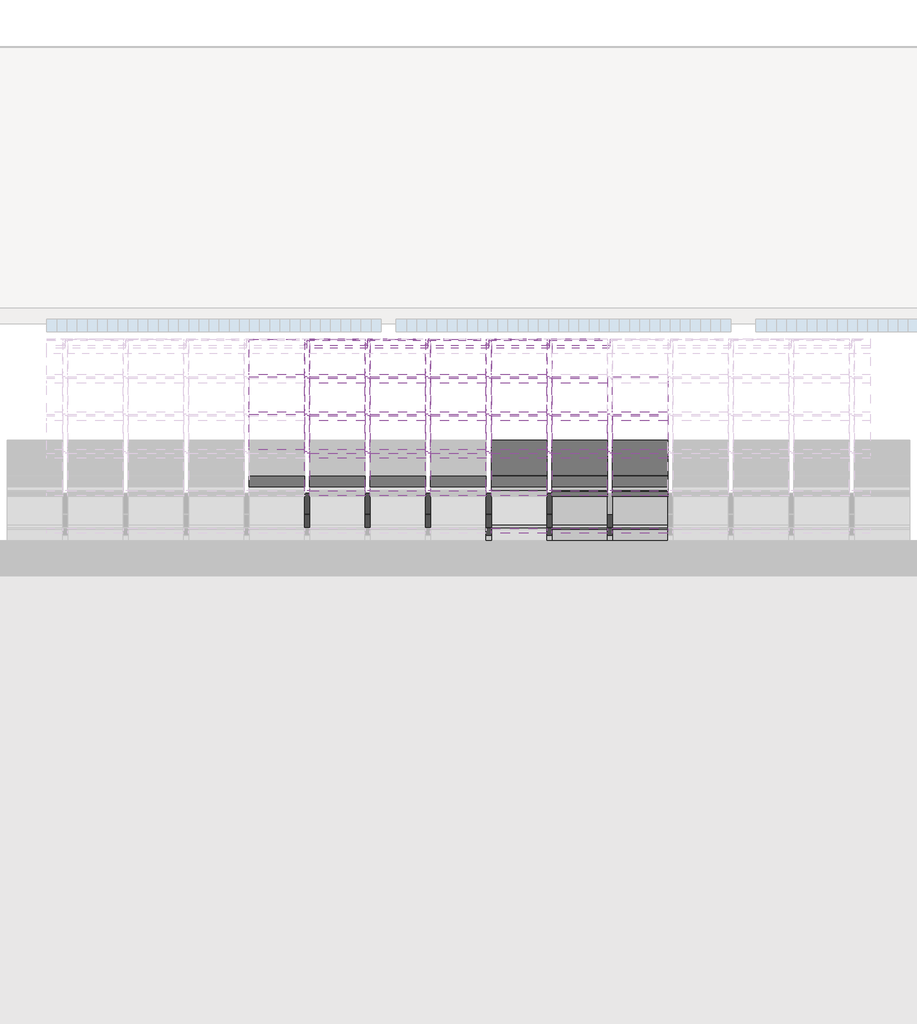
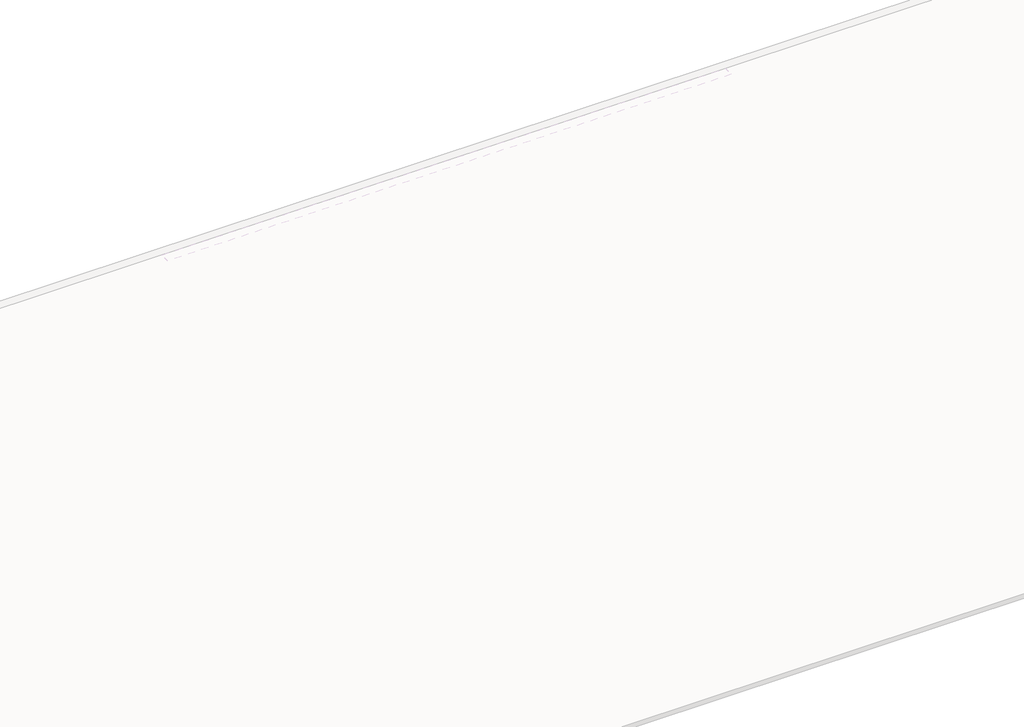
# One storey, part 22 of 57: 88 members, 33 plates.
"""IFC4 building model written with IfcOpenShell, lengths in millimetres."""

from ifc_helpers import new_model, si_unit, origin, place, context, project, spatial, transform, mapped, element, save
from components import rectangular_mullion_4c4137b9, rectangular_mullion_59984080, rectangular_mullion_2d2423ea, rectangular_mullion_3ac3718c, rectangular_mullion_caibro_df98490b, rectangular_mullion_caibro_e4384bba, rectangular_mullion_caibro_0993a3cf, rectangular_mullion_caibro_9bd7bc61, rectangular_mullion_caibro_650698a1, empty_system_panel_vazio_178faf58, empty_system_panel_vazio_2c78850d

model = new_model("IFC4")

# Units and contexts
model_context = context("Model", 3, world=origin())
ifc_project = project(units=[si_unit("LENGTHUNIT", "METRE", prefix="MILLI")], contexts=[model_context])

# Site, building, storey
site = spatial("IfcSite", under=ifc_project)
building = spatial("IfcBuilding", under=site)
storey = spatial("IfcBuildingStorey", under=building, Name="Nível 2", Elevation=4100.0)

# Members
placement = place(None, origin())
rectangular_mullion_shape = rectangular_mullion_4c4137b9(model_context)
element("IfcMember", 1, ObjectType="Rectangular Mullion : Ripa", at=placement, inside=storey, context=model_context, shape_type="MappedRepresentation", body=[
    mapped(rectangular_mullion_shape, transform((12498.6662678, 15566.1284427, 5819.8877114), x_axis=(0.0, 0.9578262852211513, 0.2873478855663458), y_axis=(0.0, 0.2873478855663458, -0.9578262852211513), z_axis=(-1.0, 0.0, 0.0))),
])
element("IfcMember", 2, ObjectType="Rectangular Mullion : Ripa", at=placement, inside=storey, context=model_context, shape_type="MappedRepresentation", body=[
    mapped(rectangular_mullion_shape, transform((13095.7210242, 15566.1284427, 5819.8877114), x_axis=(0.0, 0.9578262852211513, 0.2873478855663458), y_axis=(0.0, 0.2873478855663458, -0.9578262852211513), z_axis=(-1.0, 0.0, 0.0))),
])
element("IfcMember", 3, ObjectType="Rectangular Mullion : Ripa", at=placement, inside=storey, context=model_context, shape_type="MappedRepresentation", body=[
    mapped(rectangular_mullion_shape, transform((13692.7757807, 15566.1284427, 5819.8877114), x_axis=(0.0, 0.9578262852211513, 0.2873478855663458), y_axis=(0.0, 0.2873478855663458, -0.9578262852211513), z_axis=(-1.0, 0.0, 0.0))),
])
element("IfcMember", 4, ObjectType="Rectangular Mullion : Ripa", at=placement, inside=storey, context=model_context, shape_type="MappedRepresentation", body=[
    mapped(rectangular_mullion_shape, transform((14289.8305371, 15566.1284427, 5819.8877114), x_axis=(0.0, 0.9578262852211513, 0.2873478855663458), y_axis=(0.0, 0.2873478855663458, -0.9578262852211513), z_axis=(-1.0, 0.0, 0.0))),
])
element("IfcMember", 5, ObjectType="Rectangular Mullion : Ripa", at=placement, inside=storey, context=model_context, shape_type="MappedRepresentation", body=[
    mapped(rectangular_mullion_shape, transform((14886.8852935, 15566.1284427, 5819.8877114), x_axis=(0.0, 0.9578262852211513, 0.2873478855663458), y_axis=(0.0, 0.2873478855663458, -0.9578262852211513), z_axis=(-1.0, 0.0, 0.0))),
])
rectangular_mullion_2_shape = rectangular_mullion_59984080(model_context)
element("IfcMember", 6, ObjectType="Rectangular Mullion : Ripa", at=placement, inside=storey, context=model_context, shape_type="MappedRepresentation", body=[
    mapped(rectangular_mullion_2_shape, transform((14314.8305371, 13345.0648907, 5153.5686458), x_axis=(0.0, 0.9578262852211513, 0.2873478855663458), y_axis=(0.0, 0.2873478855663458, -0.9578262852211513), z_axis=(-1.0, 0.0, 0.0))),
])
element("IfcMember", 7, ObjectType="Rectangular Mullion : Ripa", at=placement, inside=storey, context=model_context, shape_type="MappedRepresentation", body=[
    mapped(rectangular_mullion_2_shape, transform((14911.8852935, 13345.0648907, 5153.5686458), x_axis=(0.0, 0.9578262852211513, 0.2873478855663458), y_axis=(0.0, 0.2873478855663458, -0.9578262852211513), z_axis=(-1.0, 0.0, 0.0))),
])
element("IfcMember", 8, ObjectType="Rectangular Mullion : Ripa", at=placement, inside=storey, context=model_context, shape_type="MappedRepresentation", body=[
    mapped(rectangular_mullion_2_shape, transform((15508.9400499, 13345.0648907, 5153.5686458), x_axis=(0.0, 0.9578262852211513, 0.2873478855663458), y_axis=(0.0, 0.2873478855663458, -0.9578262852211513), z_axis=(-1.0, 0.0, 0.0))),
])
element("IfcMember", 9, ObjectType="Rectangular Mullion : Ripa", at=placement, inside=storey, context=model_context, shape_type="MappedRepresentation", body=[
    mapped(rectangular_mullion_2_shape, transform((14314.8305371, 13715.2421494, 5264.6218234), x_axis=(0.0, 0.9578262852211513, 0.2873478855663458), y_axis=(0.0, 0.2873478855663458, -0.9578262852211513), z_axis=(-1.0, 0.0, 0.0))),
])
element("IfcMember", 10, ObjectType="Rectangular Mullion : Ripa", at=placement, inside=storey, context=model_context, shape_type="MappedRepresentation", body=[
    mapped(rectangular_mullion_2_shape, transform((14911.8852935, 13715.2421494, 5264.6218234), x_axis=(0.0, 0.9578262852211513, 0.2873478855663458), y_axis=(0.0, 0.2873478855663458, -0.9578262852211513), z_axis=(-1.0, 0.0, 0.0))),
])
element("IfcMember", 11, ObjectType="Rectangular Mullion : Ripa", at=placement, inside=storey, context=model_context, shape_type="MappedRepresentation", body=[
    mapped(rectangular_mullion_2_shape, transform((15508.9400499, 13715.2421494, 5264.6218234), x_axis=(0.0, 0.9578262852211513, 0.2873478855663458), y_axis=(0.0, 0.2873478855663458, -0.9578262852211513), z_axis=(-1.0, 0.0, 0.0))),
])
element("IfcMember", 12, ObjectType="Rectangular Mullion : Ripa", at=placement, inside=storey, context=model_context, shape_type="MappedRepresentation", body=[
    mapped(rectangular_mullion_2_shape, transform((12523.6662678, 14085.4194081, 5375.675001), x_axis=(0.0, 0.9578262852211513, 0.2873478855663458), y_axis=(0.0, 0.2873478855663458, -0.9578262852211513), z_axis=(-1.0, 0.0, 0.0))),
])
element("IfcMember", 13, ObjectType="Rectangular Mullion : Ripa", at=placement, inside=storey, context=model_context, shape_type="MappedRepresentation", body=[
    mapped(rectangular_mullion_2_shape, transform((13120.7210242, 14085.4194081, 5375.675001), x_axis=(0.0, 0.9578262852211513, 0.2873478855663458), y_axis=(0.0, 0.2873478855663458, -0.9578262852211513), z_axis=(-1.0, 0.0, 0.0))),
])
element("IfcMember", 14, ObjectType="Rectangular Mullion : Ripa", at=placement, inside=storey, context=model_context, shape_type="MappedRepresentation", body=[
    mapped(rectangular_mullion_2_shape, transform((13717.7757807, 14085.4194081, 5375.675001), x_axis=(0.0, 0.9578262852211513, 0.2873478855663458), y_axis=(0.0, 0.2873478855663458, -0.9578262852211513), z_axis=(-1.0, 0.0, 0.0))),
])
element("IfcMember", 15, ObjectType="Rectangular Mullion : Ripa", at=placement, inside=storey, context=model_context, shape_type="MappedRepresentation", body=[
    mapped(rectangular_mullion_2_shape, transform((14314.8305371, 14085.4194081, 5375.675001), x_axis=(0.0, 0.9578262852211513, 0.2873478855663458), y_axis=(0.0, 0.2873478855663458, -0.9578262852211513), z_axis=(-1.0, 0.0, 0.0))),
])
element("IfcMember", 16, ObjectType="Rectangular Mullion : Ripa", at=placement, inside=storey, context=model_context, shape_type="MappedRepresentation", body=[
    mapped(rectangular_mullion_2_shape, transform((14911.8852935, 14085.4194081, 5375.675001), x_axis=(0.0, 0.9578262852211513, 0.2873478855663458), y_axis=(0.0, 0.2873478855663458, -0.9578262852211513), z_axis=(-1.0, 0.0, 0.0))),
])
element("IfcMember", 17, ObjectType="Rectangular Mullion : Ripa", at=placement, inside=storey, context=model_context, shape_type="MappedRepresentation", body=[
    mapped(rectangular_mullion_2_shape, transform((15508.9400499, 14085.4194081, 5375.675001), x_axis=(0.0, 0.9578262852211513, 0.2873478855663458), y_axis=(0.0, 0.2873478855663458, -0.9578262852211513), z_axis=(-1.0, 0.0, 0.0))),
])
element("IfcMember", 18, ObjectType="Rectangular Mullion : Ripa", at=placement, inside=storey, context=model_context, shape_type="MappedRepresentation", body=[
    mapped(rectangular_mullion_2_shape, transform((12523.6662678, 14455.5966667, 5486.7281786), x_axis=(0.0, 0.9578262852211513, 0.2873478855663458), y_axis=(0.0, 0.2873478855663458, -0.9578262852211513), z_axis=(-1.0, 0.0, 0.0))),
])
element("IfcMember", 19, ObjectType="Rectangular Mullion : Ripa", at=placement, inside=storey, context=model_context, shape_type="MappedRepresentation", body=[
    mapped(rectangular_mullion_2_shape, transform((13120.7210242, 14455.5966667, 5486.7281786), x_axis=(0.0, 0.9578262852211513, 0.2873478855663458), y_axis=(0.0, 0.2873478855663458, -0.9578262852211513), z_axis=(-1.0, 0.0, 0.0))),
])
element("IfcMember", 20, ObjectType="Rectangular Mullion : Ripa", at=placement, inside=storey, context=model_context, shape_type="MappedRepresentation", body=[
    mapped(rectangular_mullion_2_shape, transform((13717.7757807, 14455.5966667, 5486.7281786), x_axis=(0.0, 0.9578262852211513, 0.2873478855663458), y_axis=(0.0, 0.2873478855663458, -0.9578262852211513), z_axis=(-1.0, 0.0, 0.0))),
])
element("IfcMember", 21, ObjectType="Rectangular Mullion : Ripa", at=placement, inside=storey, context=model_context, shape_type="MappedRepresentation", body=[
    mapped(rectangular_mullion_2_shape, transform((14314.8305371, 14455.5966667, 5486.7281786), x_axis=(0.0, 0.9578262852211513, 0.2873478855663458), y_axis=(0.0, 0.2873478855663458, -0.9578262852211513), z_axis=(-1.0, 0.0, 0.0))),
])
element("IfcMember", 22, ObjectType="Rectangular Mullion : Ripa", at=placement, inside=storey, context=model_context, shape_type="MappedRepresentation", body=[
    mapped(rectangular_mullion_2_shape, transform((14911.8852935, 14455.5966667, 5486.7281786), x_axis=(0.0, 0.9578262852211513, 0.2873478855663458), y_axis=(0.0, 0.2873478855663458, -0.9578262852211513), z_axis=(-1.0, 0.0, 0.0))),
])
element("IfcMember", 23, ObjectType="Rectangular Mullion : Ripa", at=placement, inside=storey, context=model_context, shape_type="MappedRepresentation", body=[
    mapped(rectangular_mullion_2_shape, transform((15508.9400499, 14455.5966667, 5486.7281786), x_axis=(0.0, 0.9578262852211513, 0.2873478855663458), y_axis=(0.0, 0.2873478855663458, -0.9578262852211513), z_axis=(-1.0, 0.0, 0.0))),
])
element("IfcMember", 24, ObjectType="Rectangular Mullion : Ripa", at=placement, inside=storey, context=model_context, shape_type="MappedRepresentation", body=[
    mapped(rectangular_mullion_2_shape, transform((12523.6662678, 14825.7739254, 5597.7813562), x_axis=(0.0, 0.9578262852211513, 0.2873478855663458), y_axis=(0.0, 0.2873478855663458, -0.9578262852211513), z_axis=(-1.0, 0.0, 0.0))),
])
element("IfcMember", 25, ObjectType="Rectangular Mullion : Ripa", at=placement, inside=storey, context=model_context, shape_type="MappedRepresentation", body=[
    mapped(rectangular_mullion_2_shape, transform((13120.7210242, 14825.7739254, 5597.7813562), x_axis=(0.0, 0.9578262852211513, 0.2873478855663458), y_axis=(0.0, 0.2873478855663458, -0.9578262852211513), z_axis=(-1.0, 0.0, 0.0))),
])
element("IfcMember", 26, ObjectType="Rectangular Mullion : Ripa", at=placement, inside=storey, context=model_context, shape_type="MappedRepresentation", body=[
    mapped(rectangular_mullion_2_shape, transform((13717.7757807, 14825.7739254, 5597.7813562), x_axis=(0.0, 0.9578262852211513, 0.2873478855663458), y_axis=(0.0, 0.2873478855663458, -0.9578262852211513), z_axis=(-1.0, 0.0, 0.0))),
])
element("IfcMember", 27, ObjectType="Rectangular Mullion : Ripa", at=placement, inside=storey, context=model_context, shape_type="MappedRepresentation", body=[
    mapped(rectangular_mullion_2_shape, transform((14314.8305371, 14825.7739254, 5597.7813562), x_axis=(0.0, 0.9578262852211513, 0.2873478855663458), y_axis=(0.0, 0.2873478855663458, -0.9578262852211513), z_axis=(-1.0, 0.0, 0.0))),
])
element("IfcMember", 28, ObjectType="Rectangular Mullion : Ripa", at=placement, inside=storey, context=model_context, shape_type="MappedRepresentation", body=[
    mapped(rectangular_mullion_2_shape, transform((14911.8852935, 14825.7739254, 5597.7813562), x_axis=(0.0, 0.9578262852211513, 0.2873478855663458), y_axis=(0.0, 0.2873478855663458, -0.9578262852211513), z_axis=(-1.0, 0.0, 0.0))),
])
element("IfcMember", 29, ObjectType="Rectangular Mullion : Ripa", at=placement, inside=storey, context=model_context, shape_type="MappedRepresentation", body=[
    mapped(rectangular_mullion_2_shape, transform((15508.9400499, 14825.7739254, 5597.7813562), x_axis=(0.0, 0.9578262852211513, 0.2873478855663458), y_axis=(0.0, 0.2873478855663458, -0.9578262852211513), z_axis=(-1.0, 0.0, 0.0))),
])
element("IfcMember", 30, ObjectType="Rectangular Mullion : Ripa", at=placement, inside=storey, context=model_context, shape_type="MappedRepresentation", body=[
    mapped(rectangular_mullion_2_shape, transform((12523.6662678, 15195.9511841, 5708.8345338), x_axis=(0.0, 0.9578262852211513, 0.2873478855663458), y_axis=(0.0, 0.2873478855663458, -0.9578262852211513), z_axis=(-1.0, 0.0, 0.0))),
])
element("IfcMember", 31, ObjectType="Rectangular Mullion : Ripa", at=placement, inside=storey, context=model_context, shape_type="MappedRepresentation", body=[
    mapped(rectangular_mullion_2_shape, transform((13120.7210242, 15195.9511841, 5708.8345338), x_axis=(0.0, 0.9578262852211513, 0.2873478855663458), y_axis=(0.0, 0.2873478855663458, -0.9578262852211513), z_axis=(-1.0, 0.0, 0.0))),
])
element("IfcMember", 32, ObjectType="Rectangular Mullion : Ripa", at=placement, inside=storey, context=model_context, shape_type="MappedRepresentation", body=[
    mapped(rectangular_mullion_2_shape, transform((13717.7757807, 15195.9511841, 5708.8345338), x_axis=(0.0, 0.9578262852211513, 0.2873478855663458), y_axis=(0.0, 0.2873478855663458, -0.9578262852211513), z_axis=(-1.0, 0.0, 0.0))),
])
element("IfcMember", 33, ObjectType="Rectangular Mullion : Ripa", at=placement, inside=storey, context=model_context, shape_type="MappedRepresentation", body=[
    mapped(rectangular_mullion_2_shape, transform((14314.8305371, 15195.9511841, 5708.8345338), x_axis=(0.0, 0.9578262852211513, 0.2873478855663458), y_axis=(0.0, 0.2873478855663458, -0.9578262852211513), z_axis=(-1.0, 0.0, 0.0))),
])
element("IfcMember", 34, ObjectType="Rectangular Mullion : Ripa", at=placement, inside=storey, context=model_context, shape_type="MappedRepresentation", body=[
    mapped(rectangular_mullion_2_shape, transform((14911.8852935, 15195.9511841, 5708.8345338), x_axis=(0.0, 0.9578262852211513, 0.2873478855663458), y_axis=(0.0, 0.2873478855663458, -0.9578262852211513), z_axis=(-1.0, 0.0, 0.0))),
])
rectangular_mullion_3_shape = rectangular_mullion_2d2423ea(model_context)
element("IfcMember", 35, ObjectType="Rectangular Mullion : Terça", at=placement, inside=storey, context=model_context, shape_type="MappedRepresentation", body=[
    mapped(rectangular_mullion_3_shape, transform((14314.8305371, 13411.2689826, 5110.7880343), x_axis=(0.0, 0.9578262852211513, 0.2873478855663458), y_axis=(0.0, 0.2873478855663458, -0.9578262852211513), z_axis=(-1.0, 0.0, 0.0))),
])
element("IfcMember", 36, ObjectType="Rectangular Mullion : Terça", at=placement, inside=storey, context=model_context, shape_type="MappedRepresentation", body=[
    mapped(rectangular_mullion_3_shape, transform((14911.8852935, 13411.2689826, 5110.7880343), x_axis=(0.0, 0.9578262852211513, 0.2873478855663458), y_axis=(0.0, 0.2873478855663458, -0.9578262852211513), z_axis=(-1.0, 0.0, 0.0))),
])
element("IfcMember", 37, ObjectType="Rectangular Mullion : Terça", at=placement, inside=storey, context=model_context, shape_type="MappedRepresentation", body=[
    mapped(rectangular_mullion_3_shape, transform((15508.9400499, 13411.2689826, 5110.7880343), x_axis=(0.0, 0.9578262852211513, 0.2873478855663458), y_axis=(0.0, 0.2873478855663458, -0.9578262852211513), z_axis=(-1.0, 0.0, 0.0))),
])
rectangular_mullion_4_shape = rectangular_mullion_3ac3718c(model_context)
element("IfcMember", 38, ObjectType="Rectangular Mullion : Terça", at=placement, inside=storey, context=model_context, shape_type="MappedRepresentation", body=[
    mapped(rectangular_mullion_4_shape, transform((12498.6662678, 15566.1284427, 5757.2458723), x_axis=(0.0, 0.9578262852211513, 0.2873478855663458), y_axis=(0.0, 0.2873478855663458, -0.9578262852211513), z_axis=(-1.0, 0.0, 0.0))),
])
element("IfcMember", 39, ObjectType="Rectangular Mullion : Terça", at=placement, inside=storey, context=model_context, shape_type="MappedRepresentation", body=[
    mapped(rectangular_mullion_4_shape, transform((13095.7210242, 15566.1284427, 5757.2458723), x_axis=(0.0, 0.9578262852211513, 0.2873478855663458), y_axis=(0.0, 0.2873478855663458, -0.9578262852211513), z_axis=(-1.0, 0.0, 0.0))),
])
element("IfcMember", 40, ObjectType="Rectangular Mullion : Terça", at=placement, inside=storey, context=model_context, shape_type="MappedRepresentation", body=[
    mapped(rectangular_mullion_4_shape, transform((13692.7757807, 15566.1284427, 5757.2458723), x_axis=(0.0, 0.9578262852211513, 0.2873478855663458), y_axis=(0.0, 0.2873478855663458, -0.9578262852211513), z_axis=(-1.0, 0.0, 0.0))),
])
element("IfcMember", 41, ObjectType="Rectangular Mullion : Terça", at=placement, inside=storey, context=model_context, shape_type="MappedRepresentation", body=[
    mapped(rectangular_mullion_4_shape, transform((14289.8305371, 15566.1284427, 5757.2458723), x_axis=(0.0, 0.9578262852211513, 0.2873478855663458), y_axis=(0.0, 0.2873478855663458, -0.9578262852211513), z_axis=(-1.0, 0.0, 0.0))),
])
element("IfcMember", 42, ObjectType="Rectangular Mullion : Terça", at=placement, inside=storey, context=model_context, shape_type="MappedRepresentation", body=[
    mapped(rectangular_mullion_4_shape, transform((14886.8852935, 15566.1284427, 5757.2458723), x_axis=(0.0, 0.9578262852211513, 0.2873478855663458), y_axis=(0.0, 0.2873478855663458, -0.9578262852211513), z_axis=(-1.0, 0.0, 0.0))),
])
rectangular_mullion_caibro_shape = rectangular_mullion_caibro_df98490b(model_context)
element("IfcMember", 43, ObjectType="Rectangular Mullion : Caibro", at=placement, inside=storey, context=model_context, shape_type="MappedRepresentation", body=[
    mapped(rectangular_mullion_caibro_shape, transform((12498.6662678, 15518.2371285, 5805.5203171), x_axis=(1.0, 0.0, 0.0), y_axis=(0.0, 0.28734788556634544, -0.9578262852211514), z_axis=(0.0, 0.9578262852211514, 0.28734788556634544))),
])
element("IfcMember", 44, ObjectType="Rectangular Mullion : Caibro", at=placement, inside=storey, context=model_context, shape_type="MappedRepresentation", body=[
    mapped(rectangular_mullion_caibro_shape, transform((13095.7210242, 15518.2371285, 5805.5203171), x_axis=(1.0, 0.0, 0.0), y_axis=(0.0, 0.28734788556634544, -0.9578262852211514), z_axis=(0.0, 0.9578262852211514, 0.28734788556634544))),
])
element("IfcMember", 45, ObjectType="Rectangular Mullion : Caibro", at=placement, inside=storey, context=model_context, shape_type="MappedRepresentation", body=[
    mapped(rectangular_mullion_caibro_shape, transform((13692.7757807, 15518.2371285, 5805.5203171), x_axis=(1.0, 0.0, 0.0), y_axis=(0.0, 0.28734788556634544, -0.9578262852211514), z_axis=(0.0, 0.9578262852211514, 0.28734788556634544))),
])
element("IfcMember", 46, ObjectType="Rectangular Mullion : Caibro", at=placement, inside=storey, context=model_context, shape_type="MappedRepresentation", body=[
    mapped(rectangular_mullion_caibro_shape, transform((14289.8305371, 15518.2371285, 5805.5203171), x_axis=(1.0, 0.0, 0.0), y_axis=(0.0, 0.28734788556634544, -0.9578262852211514), z_axis=(0.0, 0.9578262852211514, 0.28734788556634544))),
])
element("IfcMember", 47, ObjectType="Rectangular Mullion : Caibro", at=placement, inside=storey, context=model_context, shape_type="MappedRepresentation", body=[
    mapped(rectangular_mullion_caibro_shape, transform((14886.8852935, 15518.2371285, 5805.5203171), x_axis=(1.0, 0.0, 0.0), y_axis=(0.0, 0.28734788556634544, -0.9578262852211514), z_axis=(0.0, 0.9578262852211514, 0.28734788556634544))),
])
rectangular_mullion_caibro_2_shape = rectangular_mullion_caibro_e4384bba(model_context)
element("IfcMember", 48, ObjectType="Rectangular Mullion : Caibro", at=placement, inside=storey, context=model_context, shape_type="MappedRepresentation", body=[
    mapped(rectangular_mullion_caibro_2_shape, transform((12498.6662678, 14085.4194081, 5375.675001), x_axis=(1.0, 0.0, 0.0), y_axis=(0.0, 0.28734788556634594, -0.9578262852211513), z_axis=(0.0, 0.9578262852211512, 0.2873478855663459))),
])
element("IfcMember", 49, ObjectType="Rectangular Mullion : Caibro", at=placement, inside=storey, context=model_context, shape_type="MappedRepresentation", body=[
    mapped(rectangular_mullion_caibro_2_shape, transform((12498.6662678, 14455.5966667, 5486.7281786), x_axis=(1.0, 0.0, 0.0), y_axis=(0.0, 0.2873478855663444, -0.9578262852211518), z_axis=(0.0, 0.9578262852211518, 0.2873478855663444))),
])
element("IfcMember", 50, ObjectType="Rectangular Mullion : Caibro", at=placement, inside=storey, context=model_context, shape_type="MappedRepresentation", body=[
    mapped(rectangular_mullion_caibro_2_shape, transform((12498.6662678, 14825.7739254, 5597.7813562), x_axis=(1.0, 0.0, 0.0), y_axis=(0.0, 0.287347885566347, -0.9578262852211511), z_axis=(0.0, 0.9578262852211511, 0.287347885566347))),
])
element("IfcMember", 51, ObjectType="Rectangular Mullion : Caibro", at=placement, inside=storey, context=model_context, shape_type="MappedRepresentation", body=[
    mapped(rectangular_mullion_caibro_2_shape, transform((12498.6662678, 15195.9511841, 5708.8345338), x_axis=(1.0, 0.0, 0.0), y_axis=(0.0, 0.28734788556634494, -0.9578262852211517), z_axis=(0.0, 0.9578262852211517, 0.28734788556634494))),
])
element("IfcMember", 52, ObjectType="Rectangular Mullion : Caibro", at=placement, inside=storey, context=model_context, shape_type="MappedRepresentation", body=[
    mapped(rectangular_mullion_caibro_2_shape, transform((13095.7210242, 14085.4194081, 5375.675001), x_axis=(1.0, 0.0, 0.0), y_axis=(0.0, 0.28734788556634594, -0.9578262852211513), z_axis=(0.0, 0.9578262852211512, 0.2873478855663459))),
])
element("IfcMember", 53, ObjectType="Rectangular Mullion : Caibro", at=placement, inside=storey, context=model_context, shape_type="MappedRepresentation", body=[
    mapped(rectangular_mullion_caibro_2_shape, transform((13095.7210242, 14455.5966667, 5486.7281786), x_axis=(1.0, 0.0, 0.0), y_axis=(0.0, 0.2873478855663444, -0.9578262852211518), z_axis=(0.0, 0.9578262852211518, 0.2873478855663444))),
])
element("IfcMember", 54, ObjectType="Rectangular Mullion : Caibro", at=placement, inside=storey, context=model_context, shape_type="MappedRepresentation", body=[
    mapped(rectangular_mullion_caibro_2_shape, transform((13095.7210242, 14825.7739254, 5597.7813562), x_axis=(1.0, 0.0, 0.0), y_axis=(0.0, 0.287347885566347, -0.9578262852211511), z_axis=(0.0, 0.9578262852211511, 0.287347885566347))),
])
element("IfcMember", 55, ObjectType="Rectangular Mullion : Caibro", at=placement, inside=storey, context=model_context, shape_type="MappedRepresentation", body=[
    mapped(rectangular_mullion_caibro_2_shape, transform((13095.7210242, 15195.9511841, 5708.8345338), x_axis=(1.0, 0.0, 0.0), y_axis=(0.0, 0.28734788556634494, -0.9578262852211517), z_axis=(0.0, 0.9578262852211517, 0.28734788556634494))),
])
element("IfcMember", 56, ObjectType="Rectangular Mullion : Caibro", at=placement, inside=storey, context=model_context, shape_type="MappedRepresentation", body=[
    mapped(rectangular_mullion_caibro_2_shape, transform((13692.7757807, 14085.4194081, 5375.675001), x_axis=(1.0, 0.0, 0.0), y_axis=(0.0, 0.28734788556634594, -0.9578262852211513), z_axis=(0.0, 0.9578262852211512, 0.2873478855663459))),
])
element("IfcMember", 57, ObjectType="Rectangular Mullion : Caibro", at=placement, inside=storey, context=model_context, shape_type="MappedRepresentation", body=[
    mapped(rectangular_mullion_caibro_2_shape, transform((13692.7757807, 14455.5966667, 5486.7281786), x_axis=(1.0, 0.0, 0.0), y_axis=(0.0, 0.2873478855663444, -0.9578262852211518), z_axis=(0.0, 0.9578262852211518, 0.2873478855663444))),
])
element("IfcMember", 58, ObjectType="Rectangular Mullion : Caibro", at=placement, inside=storey, context=model_context, shape_type="MappedRepresentation", body=[
    mapped(rectangular_mullion_caibro_2_shape, transform((13692.7757807, 14825.7739254, 5597.7813562), x_axis=(1.0, 0.0, 0.0), y_axis=(0.0, 0.287347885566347, -0.9578262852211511), z_axis=(0.0, 0.9578262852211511, 0.287347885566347))),
])
element("IfcMember", 59, ObjectType="Rectangular Mullion : Caibro", at=placement, inside=storey, context=model_context, shape_type="MappedRepresentation", body=[
    mapped(rectangular_mullion_caibro_2_shape, transform((13692.7757807, 15195.9511841, 5708.8345338), x_axis=(1.0, 0.0, 0.0), y_axis=(0.0, 0.28734788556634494, -0.9578262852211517), z_axis=(0.0, 0.9578262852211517, 0.28734788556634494))),
])
element("IfcMember", 60, ObjectType="Rectangular Mullion : Caibro", at=placement, inside=storey, context=model_context, shape_type="MappedRepresentation", body=[
    mapped(rectangular_mullion_caibro_2_shape, transform((14289.8305371, 13715.2421494, 5264.6218234), x_axis=(1.0, 0.0, 0.0), y_axis=(0.0, 0.28734788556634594, -0.9578262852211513), z_axis=(0.0, 0.9578262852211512, 0.2873478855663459))),
])
element("IfcMember", 61, ObjectType="Rectangular Mullion : Caibro", at=placement, inside=storey, context=model_context, shape_type="MappedRepresentation", body=[
    mapped(rectangular_mullion_caibro_2_shape, transform((14289.8305371, 14085.4194081, 5375.675001), x_axis=(1.0, 0.0, 0.0), y_axis=(0.0, 0.28734788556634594, -0.9578262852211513), z_axis=(0.0, 0.9578262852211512, 0.2873478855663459))),
])
element("IfcMember", 62, ObjectType="Rectangular Mullion : Caibro", at=placement, inside=storey, context=model_context, shape_type="MappedRepresentation", body=[
    mapped(rectangular_mullion_caibro_2_shape, transform((14289.8305371, 14455.5966667, 5486.7281786), x_axis=(1.0, 0.0, 0.0), y_axis=(0.0, 0.2873478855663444, -0.9578262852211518), z_axis=(0.0, 0.9578262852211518, 0.2873478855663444))),
])
element("IfcMember", 63, ObjectType="Rectangular Mullion : Caibro", at=placement, inside=storey, context=model_context, shape_type="MappedRepresentation", body=[
    mapped(rectangular_mullion_caibro_2_shape, transform((14289.8305371, 14825.7739254, 5597.7813562), x_axis=(1.0, 0.0, 0.0), y_axis=(0.0, 0.287347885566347, -0.9578262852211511), z_axis=(0.0, 0.9578262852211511, 0.287347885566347))),
])
element("IfcMember", 64, ObjectType="Rectangular Mullion : Caibro", at=placement, inside=storey, context=model_context, shape_type="MappedRepresentation", body=[
    mapped(rectangular_mullion_caibro_2_shape, transform((14289.8305371, 15195.9511841, 5708.8345338), x_axis=(1.0, 0.0, 0.0), y_axis=(0.0, 0.28734788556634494, -0.9578262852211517), z_axis=(0.0, 0.9578262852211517, 0.28734788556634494))),
])
element("IfcMember", 65, ObjectType="Rectangular Mullion : Caibro", at=placement, inside=storey, context=model_context, shape_type="MappedRepresentation", body=[
    mapped(rectangular_mullion_caibro_2_shape, transform((14886.8852935, 13345.0648907, 5153.5686458), x_axis=(1.0, 0.0, 0.0), y_axis=(0.0, 0.28734788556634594, -0.9578262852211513), z_axis=(0.0, 0.9578262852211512, 0.2873478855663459))),
])
element("IfcMember", 66, ObjectType="Rectangular Mullion : Caibro", at=placement, inside=storey, context=model_context, shape_type="MappedRepresentation", body=[
    mapped(rectangular_mullion_caibro_2_shape, transform((14886.8852935, 13715.2421494, 5264.6218234), x_axis=(1.0, 0.0, 0.0), y_axis=(0.0, 0.28734788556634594, -0.9578262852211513), z_axis=(0.0, 0.9578262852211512, 0.2873478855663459))),
])
element("IfcMember", 67, ObjectType="Rectangular Mullion : Caibro", at=placement, inside=storey, context=model_context, shape_type="MappedRepresentation", body=[
    mapped(rectangular_mullion_caibro_2_shape, transform((14886.8852935, 14085.4194081, 5375.675001), x_axis=(1.0, 0.0, 0.0), y_axis=(0.0, 0.28734788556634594, -0.9578262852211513), z_axis=(0.0, 0.9578262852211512, 0.2873478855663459))),
])
element("IfcMember", 68, ObjectType="Rectangular Mullion : Caibro", at=placement, inside=storey, context=model_context, shape_type="MappedRepresentation", body=[
    mapped(rectangular_mullion_caibro_2_shape, transform((14886.8852935, 14455.5966667, 5486.7281786), x_axis=(1.0, 0.0, 0.0), y_axis=(0.0, 0.2873478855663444, -0.9578262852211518), z_axis=(0.0, 0.9578262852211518, 0.2873478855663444))),
])
element("IfcMember", 69, ObjectType="Rectangular Mullion : Caibro", at=placement, inside=storey, context=model_context, shape_type="MappedRepresentation", body=[
    mapped(rectangular_mullion_caibro_2_shape, transform((14886.8852935, 14825.7739254, 5597.7813562), x_axis=(1.0, 0.0, 0.0), y_axis=(0.0, 0.287347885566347, -0.9578262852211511), z_axis=(0.0, 0.9578262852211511, 0.287347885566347))),
])
element("IfcMember", 70, ObjectType="Rectangular Mullion : Caibro", at=placement, inside=storey, context=model_context, shape_type="MappedRepresentation", body=[
    mapped(rectangular_mullion_caibro_2_shape, transform((14886.8852935, 15195.9511841, 5708.8345338), x_axis=(1.0, 0.0, 0.0), y_axis=(0.0, 0.28734788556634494, -0.9578262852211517), z_axis=(0.0, 0.9578262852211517, 0.28734788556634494))),
])
element("IfcMember", 71, ObjectType="Rectangular Mullion : Caibro", at=placement, inside=storey, context=model_context, shape_type="MappedRepresentation", body=[
    mapped(rectangular_mullion_caibro_2_shape, transform((15483.9400499, 13345.0648907, 5153.5686458), x_axis=(1.0, 0.0, 0.0), y_axis=(0.0, 0.28734788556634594, -0.9578262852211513), z_axis=(0.0, 0.9578262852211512, 0.2873478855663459))),
])
element("IfcMember", 72, ObjectType="Rectangular Mullion : Caibro", at=placement, inside=storey, context=model_context, shape_type="MappedRepresentation", body=[
    mapped(rectangular_mullion_caibro_2_shape, transform((15483.9400499, 13715.2421494, 5264.6218234), x_axis=(1.0, 0.0, 0.0), y_axis=(0.0, 0.28734788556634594, -0.9578262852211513), z_axis=(0.0, 0.9578262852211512, 0.2873478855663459))),
])
element("IfcMember", 73, ObjectType="Rectangular Mullion : Caibro", at=placement, inside=storey, context=model_context, shape_type="MappedRepresentation", body=[
    mapped(rectangular_mullion_caibro_2_shape, transform((15483.9400499, 14085.4194081, 5375.675001), x_axis=(1.0, 0.0, 0.0), y_axis=(0.0, 0.28734788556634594, -0.9578262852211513), z_axis=(0.0, 0.9578262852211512, 0.2873478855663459))),
])
element("IfcMember", 74, ObjectType="Rectangular Mullion : Caibro", at=placement, inside=storey, context=model_context, shape_type="MappedRepresentation", body=[
    mapped(rectangular_mullion_caibro_2_shape, transform((15483.9400499, 14455.5966667, 5486.7281786), x_axis=(1.0, 0.0, 0.0), y_axis=(0.0, 0.2873478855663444, -0.9578262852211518), z_axis=(0.0, 0.9578262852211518, 0.2873478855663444))),
])
element("IfcMember", 75, ObjectType="Rectangular Mullion : Caibro", at=placement, inside=storey, context=model_context, shape_type="MappedRepresentation", body=[
    mapped(rectangular_mullion_caibro_2_shape, transform((15483.9400499, 14825.7739254, 5597.7813562), x_axis=(1.0, 0.0, 0.0), y_axis=(0.0, 0.287347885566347, -0.9578262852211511), z_axis=(0.0, 0.9578262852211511, 0.287347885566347))),
])
rectangular_mullion_caibro_3_shape = rectangular_mullion_caibro_0993a3cf(model_context)
element("IfcMember", 76, ObjectType="Rectangular Mullion : Caibro", at=placement, inside=storey, context=model_context, shape_type="MappedRepresentation", body=[
    mapped(rectangular_mullion_caibro_3_shape, transform((12498.6662678, 15508.6588656, 5740.0049992), x_axis=(1.0, 0.0, 0.0), y_axis=(0.0, 0.28734788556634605, -0.9578262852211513), z_axis=(0.0, 0.9578262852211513, 0.28734788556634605))),
])
element("IfcMember", 77, ObjectType="Rectangular Mullion : Caibro", at=placement, inside=storey, context=model_context, shape_type="MappedRepresentation", body=[
    mapped(rectangular_mullion_caibro_3_shape, transform((13095.7210242, 15508.6588656, 5740.0049992), x_axis=(1.0, 0.0, 0.0), y_axis=(0.0, 0.28734788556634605, -0.9578262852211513), z_axis=(0.0, 0.9578262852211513, 0.28734788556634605))),
])
element("IfcMember", 78, ObjectType="Rectangular Mullion : Caibro", at=placement, inside=storey, context=model_context, shape_type="MappedRepresentation", body=[
    mapped(rectangular_mullion_caibro_3_shape, transform((13692.7757807, 15508.6588656, 5740.0049992), x_axis=(1.0, 0.0, 0.0), y_axis=(0.0, 0.28734788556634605, -0.9578262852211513), z_axis=(0.0, 0.9578262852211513, 0.28734788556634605))),
])
element("IfcMember", 79, ObjectType="Rectangular Mullion : Caibro", at=placement, inside=storey, context=model_context, shape_type="MappedRepresentation", body=[
    mapped(rectangular_mullion_caibro_3_shape, transform((14289.8305371, 15508.6588656, 5740.0049992), x_axis=(1.0, 0.0, 0.0), y_axis=(0.0, 0.28734788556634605, -0.9578262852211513), z_axis=(0.0, 0.9578262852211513, 0.28734788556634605))),
])
element("IfcMember", 80, ObjectType="Rectangular Mullion : Caibro", at=placement, inside=storey, context=model_context, shape_type="MappedRepresentation", body=[
    mapped(rectangular_mullion_caibro_3_shape, transform((14886.8852935, 15508.6588656, 5740.0049992), x_axis=(1.0, 0.0, 0.0), y_axis=(0.0, 0.28734788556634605, -0.9578262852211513), z_axis=(0.0, 0.9578262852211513, 0.28734788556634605))),
])
rectangular_mullion_caibro_4_shape = rectangular_mullion_caibro_9bd7bc61(model_context)
element("IfcMember", 81, ObjectType="Rectangular Mullion : Caibro", at=placement, inside=storey, context=model_context, shape_type="MappedRepresentation", body=[
    mapped(rectangular_mullion_caibro_4_shape, transform((14289.8305371, 13411.2689826, 5110.7880343), x_axis=(1.0, 0.0, 0.0), y_axis=(0.0, 0.2873478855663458, -0.9578262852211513), z_axis=(0.0, 0.9578262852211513, 0.2873478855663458))),
])
element("IfcMember", 82, ObjectType="Rectangular Mullion : Caibro", at=placement, inside=storey, context=model_context, shape_type="MappedRepresentation", body=[
    mapped(rectangular_mullion_caibro_4_shape, transform((14886.8852935, 13411.2689826, 5110.7880343), x_axis=(1.0, 0.0, 0.0), y_axis=(0.0, 0.2873478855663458, -0.9578262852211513), z_axis=(0.0, 0.9578262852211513, 0.2873478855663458))),
])
element("IfcMember", 83, ObjectType="Rectangular Mullion : Caibro", at=placement, inside=storey, context=model_context, shape_type="MappedRepresentation", body=[
    mapped(rectangular_mullion_caibro_4_shape, transform((15483.9400499, 13411.2689826, 5110.7880343), x_axis=(1.0, 0.0, 0.0), y_axis=(0.0, 0.2873478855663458, -0.9578262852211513), z_axis=(0.0, 0.9578262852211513, 0.2873478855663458))),
])
rectangular_mullion_caibro_5_shape = rectangular_mullion_caibro_650698a1(model_context)
element("IfcMember", 84, ObjectType="Rectangular Mullion : Caibro", at=placement, inside=storey, context=model_context, shape_type="MappedRepresentation", body=[
    mapped(rectangular_mullion_caibro_5_shape, transform((14873.4985861, 15772.0058221, 4410.7541277), x_axis=(-1.0, 0.0, 0.0), y_axis=(0.0, -0.28734788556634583, -0.9578262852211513), z_axis=(0.0, -0.9578262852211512, 0.2873478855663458))),
])
element("IfcMember", 85, ObjectType="Rectangular Mullion : Caibro", at=placement, inside=storey, context=model_context, shape_type="MappedRepresentation", body=[
    mapped(rectangular_mullion_caibro_5_shape, transform((14276.1500844, 15772.0058221, 4410.7541277), x_axis=(-1.0, 0.0, 0.0), y_axis=(0.0, -0.28734788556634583, -0.9578262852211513), z_axis=(0.0, -0.9578262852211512, 0.2873478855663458))),
])
element("IfcMember", 86, ObjectType="Rectangular Mullion : Caibro", at=placement, inside=storey, context=model_context, shape_type="MappedRepresentation", body=[
    mapped(rectangular_mullion_caibro_5_shape, transform((13678.8015828, 15772.0058221, 4410.7541277), x_axis=(-1.0, 0.0, 0.0), y_axis=(0.0, -0.28734788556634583, -0.9578262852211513), z_axis=(0.0, -0.9578262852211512, 0.2873478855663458))),
])
element("IfcMember", 87, ObjectType="Rectangular Mullion : Caibro", at=placement, inside=storey, context=model_context, shape_type="MappedRepresentation", body=[
    mapped(rectangular_mullion_caibro_5_shape, transform((13081.4530811, 15772.0058221, 4410.7541277), x_axis=(-1.0, 0.0, 0.0), y_axis=(0.0, -0.28734788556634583, -0.9578262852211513), z_axis=(0.0, -0.9578262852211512, 0.2873478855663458))),
])
element("IfcMember", 88, ObjectType="Rectangular Mullion : Caibro", at=placement, inside=storey, context=model_context, shape_type="MappedRepresentation", body=[
    mapped(rectangular_mullion_caibro_5_shape, transform((12484.1045794, 15772.0058221, 4410.7541277), x_axis=(-1.0, 0.0, 0.0), y_axis=(0.0, -0.28734788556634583, -0.9578262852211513), z_axis=(0.0, -0.9578262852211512, 0.2873478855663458))),
])

# Plates
empty_system_panel_vazio_shape = empty_system_panel_vazio_178faf58(model_context)
element("IfcPlate", 89, ObjectType="Empty System Panel : Vazio", at=placement, inside=storey, context=model_context, shape_type="MappedRepresentation", body=[
    mapped(empty_system_panel_vazio_shape, transform((15185.4126717, 13345.0648907, 5153.5686458), x_axis=(1.0, 0.0, 0.0), y_axis=(0.0, 0.2873478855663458, -0.9578262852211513), z_axis=(0.0, 0.9578262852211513, 0.2873478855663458))),
])
element("IfcPlate", 90, ObjectType="Empty System Panel : Vazio", at=placement, inside=storey, context=model_context, shape_type="MappedRepresentation", body=[
    mapped(empty_system_panel_vazio_shape, transform((15782.4674281, 13345.0648907, 5153.5686458), x_axis=(1.0, 0.0, 0.0), y_axis=(0.0, 0.2873478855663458, -0.9578262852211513), z_axis=(0.0, 0.9578262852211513, 0.2873478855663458))),
])
element("IfcPlate", 91, ObjectType="Empty System Panel : Vazio", at=placement, inside=storey, context=model_context, shape_type="MappedRepresentation", body=[
    mapped(empty_system_panel_vazio_shape, transform((15185.4126717, 13715.2421494, 5264.6218234), x_axis=(1.0, 0.0, 0.0), y_axis=(0.0, 0.2873478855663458, -0.9578262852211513), z_axis=(0.0, 0.9578262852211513, 0.2873478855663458))),
])
element("IfcPlate", 92, ObjectType="Empty System Panel : Vazio", at=placement, inside=storey, context=model_context, shape_type="MappedRepresentation", body=[
    mapped(empty_system_panel_vazio_shape, transform((15782.4674281, 13715.2421494, 5264.6218234), x_axis=(1.0, 0.0, 0.0), y_axis=(0.0, 0.2873478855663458, -0.9578262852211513), z_axis=(0.0, 0.9578262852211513, 0.2873478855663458))),
])
element("IfcPlate", 93, ObjectType="Empty System Panel : Vazio", at=placement, inside=storey, context=model_context, shape_type="MappedRepresentation", body=[
    mapped(empty_system_panel_vazio_shape, transform((12200.1388896, 14085.4194081, 5375.675001), x_axis=(1.0, 0.0, 0.0), y_axis=(0.0, 0.2873478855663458, -0.9578262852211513), z_axis=(0.0, 0.9578262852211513, 0.2873478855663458))),
])
element("IfcPlate", 94, ObjectType="Empty System Panel : Vazio", at=placement, inside=storey, context=model_context, shape_type="MappedRepresentation", body=[
    mapped(empty_system_panel_vazio_shape, transform((12797.193646, 14085.4194081, 5375.675001), x_axis=(1.0, 0.0, 0.0), y_axis=(0.0, 0.2873478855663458, -0.9578262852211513), z_axis=(0.0, 0.9578262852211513, 0.2873478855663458))),
])
element("IfcPlate", 95, ObjectType="Empty System Panel : Vazio", at=placement, inside=storey, context=model_context, shape_type="MappedRepresentation", body=[
    mapped(empty_system_panel_vazio_shape, transform((13394.2484024, 14085.4194081, 5375.675001), x_axis=(1.0, 0.0, 0.0), y_axis=(0.0, 0.2873478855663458, -0.9578262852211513), z_axis=(0.0, 0.9578262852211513, 0.2873478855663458))),
])
element("IfcPlate", 96, ObjectType="Empty System Panel : Vazio", at=placement, inside=storey, context=model_context, shape_type="MappedRepresentation", body=[
    mapped(empty_system_panel_vazio_shape, transform((13991.3031589, 14085.4194081, 5375.675001), x_axis=(1.0, 0.0, 0.0), y_axis=(0.0, 0.2873478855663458, -0.9578262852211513), z_axis=(0.0, 0.9578262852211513, 0.2873478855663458))),
])
element("IfcPlate", 97, ObjectType="Empty System Panel : Vazio", at=placement, inside=storey, context=model_context, shape_type="MappedRepresentation", body=[
    mapped(empty_system_panel_vazio_shape, transform((14588.3579153, 14085.4194081, 5375.675001), x_axis=(1.0, 0.0, 0.0), y_axis=(0.0, 0.2873478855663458, -0.9578262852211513), z_axis=(0.0, 0.9578262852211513, 0.2873478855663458))),
])
element("IfcPlate", 98, ObjectType="Empty System Panel : Vazio", at=placement, inside=storey, context=model_context, shape_type="MappedRepresentation", body=[
    mapped(empty_system_panel_vazio_shape, transform((15185.4126717, 14085.4194081, 5375.675001), x_axis=(1.0, 0.0, 0.0), y_axis=(0.0, 0.2873478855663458, -0.9578262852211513), z_axis=(0.0, 0.9578262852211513, 0.2873478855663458))),
])
element("IfcPlate", 99, ObjectType="Empty System Panel : Vazio", at=placement, inside=storey, context=model_context, shape_type="MappedRepresentation", body=[
    mapped(empty_system_panel_vazio_shape, transform((15782.4674281, 14085.4194081, 5375.675001), x_axis=(1.0, 0.0, 0.0), y_axis=(0.0, 0.2873478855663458, -0.9578262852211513), z_axis=(0.0, 0.9578262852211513, 0.2873478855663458))),
])
element("IfcPlate", 100, ObjectType="Empty System Panel : Vazio", at=placement, inside=storey, context=model_context, shape_type="MappedRepresentation", body=[
    mapped(empty_system_panel_vazio_shape, transform((12200.1388896, 14455.5966667, 5486.7281786), x_axis=(1.0, 0.0, 0.0), y_axis=(0.0, 0.2873478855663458, -0.9578262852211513), z_axis=(0.0, 0.9578262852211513, 0.2873478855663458))),
])
element("IfcPlate", 101, ObjectType="Empty System Panel : Vazio", at=placement, inside=storey, context=model_context, shape_type="MappedRepresentation", body=[
    mapped(empty_system_panel_vazio_shape, transform((12797.193646, 14455.5966667, 5486.7281786), x_axis=(1.0, 0.0, 0.0), y_axis=(0.0, 0.2873478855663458, -0.9578262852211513), z_axis=(0.0, 0.9578262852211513, 0.2873478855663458))),
])
element("IfcPlate", 102, ObjectType="Empty System Panel : Vazio", at=placement, inside=storey, context=model_context, shape_type="MappedRepresentation", body=[
    mapped(empty_system_panel_vazio_shape, transform((13394.2484024, 14455.5966667, 5486.7281786), x_axis=(1.0, 0.0, 0.0), y_axis=(0.0, 0.2873478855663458, -0.9578262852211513), z_axis=(0.0, 0.9578262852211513, 0.2873478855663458))),
])
element("IfcPlate", 103, ObjectType="Empty System Panel : Vazio", at=placement, inside=storey, context=model_context, shape_type="MappedRepresentation", body=[
    mapped(empty_system_panel_vazio_shape, transform((13991.3031589, 14455.5966667, 5486.7281786), x_axis=(1.0, 0.0, 0.0), y_axis=(0.0, 0.2873478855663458, -0.9578262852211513), z_axis=(0.0, 0.9578262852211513, 0.2873478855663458))),
])
element("IfcPlate", 104, ObjectType="Empty System Panel : Vazio", at=placement, inside=storey, context=model_context, shape_type="MappedRepresentation", body=[
    mapped(empty_system_panel_vazio_shape, transform((14588.3579153, 14455.5966667, 5486.7281786), x_axis=(1.0, 0.0, 0.0), y_axis=(0.0, 0.2873478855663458, -0.9578262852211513), z_axis=(0.0, 0.9578262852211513, 0.2873478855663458))),
])
element("IfcPlate", 105, ObjectType="Empty System Panel : Vazio", at=placement, inside=storey, context=model_context, shape_type="MappedRepresentation", body=[
    mapped(empty_system_panel_vazio_shape, transform((15185.4126717, 14455.5966667, 5486.7281786), x_axis=(1.0, 0.0, 0.0), y_axis=(0.0, 0.2873478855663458, -0.9578262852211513), z_axis=(0.0, 0.9578262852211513, 0.2873478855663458))),
])
element("IfcPlate", 106, ObjectType="Empty System Panel : Vazio", at=placement, inside=storey, context=model_context, shape_type="MappedRepresentation", body=[
    mapped(empty_system_panel_vazio_shape, transform((15782.4674281, 14455.5966667, 5486.7281786), x_axis=(1.0, 0.0, 0.0), y_axis=(0.0, 0.2873478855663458, -0.9578262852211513), z_axis=(0.0, 0.9578262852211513, 0.2873478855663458))),
])
element("IfcPlate", 107, ObjectType="Empty System Panel : Vazio", at=placement, inside=storey, context=model_context, shape_type="MappedRepresentation", body=[
    mapped(empty_system_panel_vazio_shape, transform((12200.1388896, 14825.7739254, 5597.7813562), x_axis=(1.0, 0.0, 0.0), y_axis=(0.0, 0.2873478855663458, -0.9578262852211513), z_axis=(0.0, 0.9578262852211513, 0.2873478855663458))),
])
element("IfcPlate", 108, ObjectType="Empty System Panel : Vazio", at=placement, inside=storey, context=model_context, shape_type="MappedRepresentation", body=[
    mapped(empty_system_panel_vazio_shape, transform((12797.193646, 14825.7739254, 5597.7813562), x_axis=(1.0, 0.0, 0.0), y_axis=(0.0, 0.2873478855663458, -0.9578262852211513), z_axis=(0.0, 0.9578262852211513, 0.2873478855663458))),
])
element("IfcPlate", 109, ObjectType="Empty System Panel : Vazio", at=placement, inside=storey, context=model_context, shape_type="MappedRepresentation", body=[
    mapped(empty_system_panel_vazio_shape, transform((13394.2484024, 14825.7739254, 5597.7813562), x_axis=(1.0, 0.0, 0.0), y_axis=(0.0, 0.2873478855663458, -0.9578262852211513), z_axis=(0.0, 0.9578262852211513, 0.2873478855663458))),
])
element("IfcPlate", 110, ObjectType="Empty System Panel : Vazio", at=placement, inside=storey, context=model_context, shape_type="MappedRepresentation", body=[
    mapped(empty_system_panel_vazio_shape, transform((13991.3031589, 14825.7739254, 5597.7813562), x_axis=(1.0, 0.0, 0.0), y_axis=(0.0, 0.2873478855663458, -0.9578262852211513), z_axis=(0.0, 0.9578262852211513, 0.2873478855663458))),
])
element("IfcPlate", 111, ObjectType="Empty System Panel : Vazio", at=placement, inside=storey, context=model_context, shape_type="MappedRepresentation", body=[
    mapped(empty_system_panel_vazio_shape, transform((14588.3579153, 14825.7739254, 5597.7813562), x_axis=(1.0, 0.0, 0.0), y_axis=(0.0, 0.2873478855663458, -0.9578262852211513), z_axis=(0.0, 0.9578262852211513, 0.2873478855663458))),
])
element("IfcPlate", 112, ObjectType="Empty System Panel : Vazio", at=placement, inside=storey, context=model_context, shape_type="MappedRepresentation", body=[
    mapped(empty_system_panel_vazio_shape, transform((15185.4126717, 14825.7739254, 5597.7813562), x_axis=(1.0, 0.0, 0.0), y_axis=(0.0, 0.2873478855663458, -0.9578262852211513), z_axis=(0.0, 0.9578262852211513, 0.2873478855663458))),
])
element("IfcPlate", 113, ObjectType="Empty System Panel : Vazio", at=placement, inside=storey, context=model_context, shape_type="MappedRepresentation", body=[
    mapped(empty_system_panel_vazio_shape, transform((15782.4674281, 14825.7739254, 5597.7813562), x_axis=(1.0, 0.0, 0.0), y_axis=(0.0, 0.2873478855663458, -0.9578262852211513), z_axis=(0.0, 0.9578262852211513, 0.2873478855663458))),
])
element("IfcPlate", 114, ObjectType="Empty System Panel : Vazio", at=placement, inside=storey, context=model_context, shape_type="MappedRepresentation", body=[
    mapped(empty_system_panel_vazio_shape, transform((12200.1388896, 15195.9511841, 5708.8345338), x_axis=(1.0, 0.0, 0.0), y_axis=(0.0, 0.2873478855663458, -0.9578262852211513), z_axis=(0.0, 0.9578262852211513, 0.2873478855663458))),
])
element("IfcPlate", 115, ObjectType="Empty System Panel : Vazio", at=placement, inside=storey, context=model_context, shape_type="MappedRepresentation", body=[
    mapped(empty_system_panel_vazio_shape, transform((12797.193646, 15195.9511841, 5708.8345338), x_axis=(1.0, 0.0, 0.0), y_axis=(0.0, 0.2873478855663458, -0.9578262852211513), z_axis=(0.0, 0.9578262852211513, 0.2873478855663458))),
])
element("IfcPlate", 116, ObjectType="Empty System Panel : Vazio", at=placement, inside=storey, context=model_context, shape_type="MappedRepresentation", body=[
    mapped(empty_system_panel_vazio_shape, transform((13394.2484024, 15195.9511841, 5708.8345338), x_axis=(1.0, 0.0, 0.0), y_axis=(0.0, 0.2873478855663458, -0.9578262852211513), z_axis=(0.0, 0.9578262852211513, 0.2873478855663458))),
])
element("IfcPlate", 117, ObjectType="Empty System Panel : Vazio", at=placement, inside=storey, context=model_context, shape_type="MappedRepresentation", body=[
    mapped(empty_system_panel_vazio_shape, transform((13991.3031589, 15195.9511841, 5708.8345338), x_axis=(1.0, 0.0, 0.0), y_axis=(0.0, 0.2873478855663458, -0.9578262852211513), z_axis=(0.0, 0.9578262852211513, 0.2873478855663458))),
])
element("IfcPlate", 118, ObjectType="Empty System Panel : Vazio", at=placement, inside=storey, context=model_context, shape_type="MappedRepresentation", body=[
    mapped(empty_system_panel_vazio_shape, transform((14588.3579153, 15195.9511841, 5708.8345338), x_axis=(1.0, 0.0, 0.0), y_axis=(0.0, 0.2873478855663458, -0.9578262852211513), z_axis=(0.0, 0.9578262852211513, 0.2873478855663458))),
])
empty_system_panel_vazio_2_shape = empty_system_panel_vazio_2c78850d(model_context)
element("IfcPlate", 119, ObjectType="Empty System Panel : Vazio", at=placement, inside=storey, context=model_context, shape_type="MappedRepresentation", body=[
    mapped(empty_system_panel_vazio_2_shape, transform((14588.3579153, 13440.0037711, 5119.4084708), x_axis=(1.0, 0.0, 0.0), y_axis=(0.0, 0.2873478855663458, -0.9578262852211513), z_axis=(0.0, 0.9578262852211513, 0.2873478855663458))),
])
element("IfcPlate", 120, ObjectType="Empty System Panel : Vazio", at=placement, inside=storey, context=model_context, shape_type="MappedRepresentation", body=[
    mapped(empty_system_panel_vazio_2_shape, transform((15185.4126717, 13440.0037711, 5119.4084708), x_axis=(1.0, 0.0, 0.0), y_axis=(0.0, 0.2873478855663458, -0.9578262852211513), z_axis=(0.0, 0.9578262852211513, 0.2873478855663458))),
])
element("IfcPlate", 121, ObjectType="Empty System Panel : Vazio", at=placement, inside=storey, context=model_context, shape_type="MappedRepresentation", body=[
    mapped(empty_system_panel_vazio_2_shape, transform((15782.4674281, 13440.0037711, 5119.4084708), x_axis=(1.0, 0.0, 0.0), y_axis=(0.0, 0.2873478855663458, -0.9578262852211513), z_axis=(0.0, 0.9578262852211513, 0.2873478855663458))),
])

save(model, "model.ifc")
